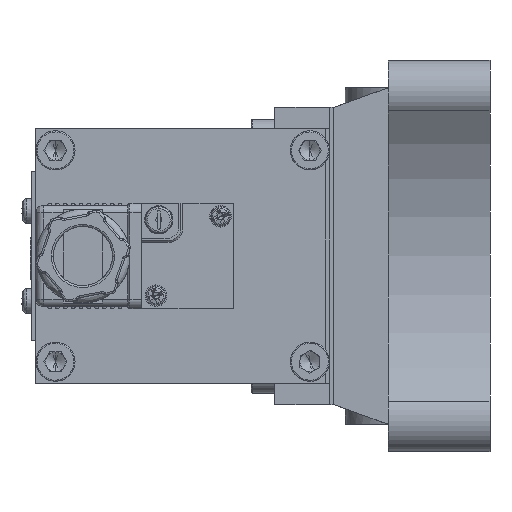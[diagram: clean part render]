
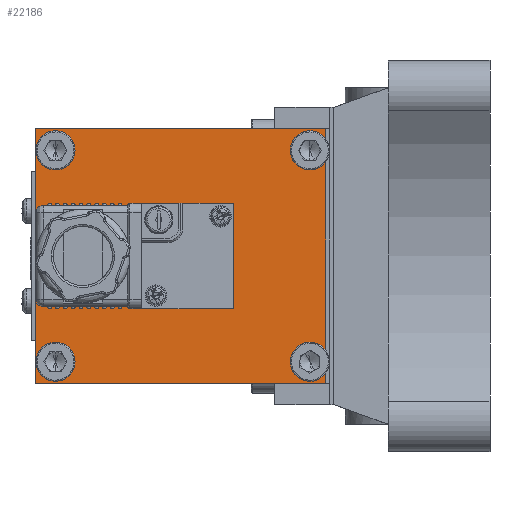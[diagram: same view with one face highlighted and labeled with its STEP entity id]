
A CAD part, left-side view. The second image highlights one B-rep face of the part: STEP entity #22186.
In plain terms, the highlighted planar face has unit normal (-1, 0, 0) as drawn and (1, 0, 0) by its records, which use the part's own axes.
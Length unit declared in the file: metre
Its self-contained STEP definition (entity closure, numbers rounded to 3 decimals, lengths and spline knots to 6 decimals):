
#594 = CARTESIAN_POINT ( 'NONE',  ( 0.08, 0.071, -0.024 ) ) ;
#962 = EDGE_CURVE ( 'NONE', #16941, #17996, #11700, .T. ) ;
#1010 = DIRECTION ( 'NONE',  ( 1., 0., 0. ) ) ;
#1412 = ORIENTED_EDGE ( 'NONE', *, *, #4409, .F. ) ;
#1476 = EDGE_CURVE ( 'NONE', #20657, #29324, #9922, .T. ) ;
#1846 = CARTESIAN_POINT ( 'NONE',  ( 0.08, 0.071, 0.024 ) ) ;
#2205 = CIRCLE ( 'NONE', #6898, 0.003 ) ;
#2241 = DIRECTION ( 'NONE',  ( 0., 0., -1. ) ) ;
#2454 = VERTEX_POINT ( 'NONE', #6439 ) ;
#2766 = VERTEX_POINT ( 'NONE', #4960 ) ;
#2784 = CARTESIAN_POINT ( 'NONE',  ( 0.08, 0.006, -0.027 ) ) ;
#3236 = AXIS2_PLACEMENT_3D ( 'NONE', #18365, #4723, #20730 ) ;
#3405 = CARTESIAN_POINT ( 'NONE',  ( 0.08, 0.006, -0.03 ) ) ;
#4269 = LINE ( 'NONE', #10450, #15651 ) ;
#4352 = CIRCLE ( 'NONE', #27742, 0.003 ) ;
#4409 = EDGE_CURVE ( 'NONE', #29324, #23172, #4269, .T. ) ;
#4452 = FACE_BOUND ( 'NONE', #13984, .T. ) ;
#4723 = DIRECTION ( 'NONE',  ( 1., 0., 0. ) ) ;
#4960 = CARTESIAN_POINT ( 'NONE',  ( 0.08, 0.002, -0.0325 ) ) ;
#5064 = DIRECTION ( 'NONE',  ( 0., 0., -1. ) ) ;
#5108 = DIRECTION ( 'NONE',  ( 1., 0., 0. ) ) ;
#5524 = VERTEX_POINT ( 'NONE', #26119 ) ;
#5773 = VECTOR ( 'NONE', #29485, 1. ) ;
#6276 = ORIENTED_EDGE ( 'NONE', *, *, #12100, .F. ) ;
#6439 = CARTESIAN_POINT ( 'NONE',  ( 0.08, 0.006, 0.024 ) ) ;
#6898 = AXIS2_PLACEMENT_3D ( 'NONE', #18762, #5108, #21119 ) ;
#7332 = CIRCLE ( 'NONE', #14010, 0.003 ) ;
#7370 = PLANE ( 'NONE',  #10486 ) ;
#7636 = CIRCLE ( 'NONE', #3236, 0.003 ) ;
#8324 = CARTESIAN_POINT ( 'NONE',  ( 0.08, 0.071, 0.03 ) ) ;
#8368 = EDGE_CURVE ( 'NONE', #24551, #5524, #7332, .T. ) ;
#8600 = VERTEX_POINT ( 'NONE', #13957 ) ;
#8602 = EDGE_CURVE ( 'NONE', #2766, #20657, #19866, .T. ) ;
#9672 = CARTESIAN_POINT ( 'NONE',  ( 0.08, 0.002, -0.0325 ) ) ;
#9785 = ORIENTED_EDGE ( 'NONE', *, *, #26286, .F. ) ;
#9922 = LINE ( 'NONE', #16521, #15248 ) ;
#10278 = ORIENTED_EDGE ( 'NONE', *, *, #8602, .F. ) ;
#10450 = CARTESIAN_POINT ( 'NONE',  ( 0.08, 0.076, 0. ) ) ;
#10486 = AXIS2_PLACEMENT_3D ( 'NONE', #9672, #11957, #28117 ) ;
#10504 = FACE_BOUND ( 'NONE', #18573, .T. ) ;
#11699 = ORIENTED_EDGE ( 'NONE', *, *, #14293, .F. ) ;
#11700 = CIRCLE ( 'NONE', #18308, 0.003 ) ;
#11957 = DIRECTION ( 'NONE',  ( -1., 0., 0. ) ) ;
#12065 = EDGE_CURVE ( 'NONE', #23172, #2766, #12562, .T. ) ;
#12100 = EDGE_CURVE ( 'NONE', #5524, #24551, #29553, .T. ) ;
#12174 = EDGE_CURVE ( 'NONE', #21383, #2454, #7636, .T. ) ;
#12562 = LINE ( 'NONE', #13301, #5773 ) ;
#13206 = CARTESIAN_POINT ( 'NONE',  ( 0.08, 0.071, -0.027 ) ) ;
#13301 = CARTESIAN_POINT ( 'NONE',  ( 0.08, 0.039, -0.0325 ) ) ;
#13392 = DIRECTION ( 'NONE',  ( 1., 0., 0. ) ) ;
#13729 = VECTOR ( 'NONE', #16244, 1. ) ;
#13914 = VERTEX_POINT ( 'NONE', #3405 ) ;
#13957 = CARTESIAN_POINT ( 'NONE',  ( 0.08, 0.006, -0.024 ) ) ;
#13984 = EDGE_LOOP ( 'NONE', ( #24973, #15130 ) ) ;
#14010 = AXIS2_PLACEMENT_3D ( 'NONE', #13206, #29387, #15494 ) ;
#14267 = CARTESIAN_POINT ( 'NONE',  ( 0.08, 0.071, 0.027 ) ) ;
#14293 = EDGE_CURVE ( 'NONE', #13914, #8600, #26361, .T. ) ;
#14585 = CARTESIAN_POINT ( 'NONE',  ( 0.08, 0.006, -0.027 ) ) ;
#15130 = ORIENTED_EDGE ( 'NONE', *, *, #23063, .F. ) ;
#15248 = VECTOR ( 'NONE', #16253, 1. ) ;
#15494 = DIRECTION ( 'NONE',  ( 0., 0., -1. ) ) ;
#15651 = VECTOR ( 'NONE', #26689, 1. ) ;
#15833 = DIRECTION ( 'NONE',  ( 1., 0., 0. ) ) ;
#16244 = DIRECTION ( 'NONE',  ( 0., 0., 1. ) ) ;
#16253 = DIRECTION ( 'NONE',  ( 0., 1., 0. ) ) ;
#16521 = CARTESIAN_POINT ( 'NONE',  ( 0.08, 0.039, 0.0325 ) ) ;
#16545 = FACE_BOUND ( 'NONE', #21972, .T. ) ;
#16717 = EDGE_CURVE ( 'NONE', #2454, #21383, #2205, .T. ) ;
#16869 = DIRECTION ( 'NONE',  ( 0., 0., -1. ) ) ;
#16941 = VERTEX_POINT ( 'NONE', #1846 ) ;
#17387 = ORIENTED_EDGE ( 'NONE', *, *, #8368, .F. ) ;
#17545 = AXIS2_PLACEMENT_3D ( 'NONE', #27261, #13392, #29583 ) ;
#17996 = VERTEX_POINT ( 'NONE', #8324 ) ;
#18308 = AXIS2_PLACEMENT_3D ( 'NONE', #21193, #21235, #21256 ) ;
#18365 = CARTESIAN_POINT ( 'NONE',  ( 0.08, 0.006, 0.027 ) ) ;
#18573 = EDGE_LOOP ( 'NONE', ( #11699, #9785 ) ) ;
#18711 = DIRECTION ( 'NONE',  ( 1., 0., 0. ) ) ;
#18762 = CARTESIAN_POINT ( 'NONE',  ( 0.08, 0.006, 0.027 ) ) ;
#18909 = ORIENTED_EDGE ( 'NONE', *, *, #1476, .F. ) ;
#19866 = LINE ( 'NONE', #23181, #13729 ) ;
#20657 = VERTEX_POINT ( 'NONE', #27501 ) ;
#20730 = DIRECTION ( 'NONE',  ( 0., 0., -1. ) ) ;
#21119 = DIRECTION ( 'NONE',  ( 0., 0., -1. ) ) ;
#21193 = CARTESIAN_POINT ( 'NONE',  ( 0.08, 0.071, 0.027 ) ) ;
#21235 = DIRECTION ( 'NONE',  ( 1., 0., 0. ) ) ;
#21256 = DIRECTION ( 'NONE',  ( 0., 0., -1. ) ) ;
#21383 = VERTEX_POINT ( 'NONE', #27559 ) ;
#21962 = CARTESIAN_POINT ( 'NONE',  ( 0.08, 0.076, 0.0325 ) ) ;
#21972 = EDGE_LOOP ( 'NONE', ( #24603, #29095 ) ) ;
#22186 = ADVANCED_FACE ( 'NONE', ( #4452, #28928, #16545, #10504, #28185 ), #7370, .F. ) ;
#23063 = EDGE_CURVE ( 'NONE', #17996, #16941, #26414, .T. ) ;
#23172 = VERTEX_POINT ( 'NONE', #29716 ) ;
#23181 = CARTESIAN_POINT ( 'NONE',  ( 0.08, 0.002, 0. ) ) ;
#24551 = VERTEX_POINT ( 'NONE', #594 ) ;
#24603 = ORIENTED_EDGE ( 'NONE', *, *, #16717, .F. ) ;
#24973 = ORIENTED_EDGE ( 'NONE', *, *, #962, .F. ) ;
#25694 = EDGE_LOOP ( 'NONE', ( #6276, #17387 ) ) ;
#26119 = CARTESIAN_POINT ( 'NONE',  ( 0.08, 0.071, -0.03 ) ) ;
#26286 = EDGE_CURVE ( 'NONE', #8600, #13914, #4352, .T. ) ;
#26361 = CIRCLE ( 'NONE', #27516, 0.003 ) ;
#26414 = CIRCLE ( 'NONE', #28872, 0.003 ) ;
#26689 = DIRECTION ( 'NONE',  ( 0., 0., -1. ) ) ;
#27261 = CARTESIAN_POINT ( 'NONE',  ( 0.08, 0.071, -0.027 ) ) ;
#27501 = CARTESIAN_POINT ( 'NONE',  ( 0.08, 0.002, 0.0325 ) ) ;
#27516 = AXIS2_PLACEMENT_3D ( 'NONE', #2784, #18711, #5064 ) ;
#27559 = CARTESIAN_POINT ( 'NONE',  ( 0.08, 0.006, 0.03 ) ) ;
#27742 = AXIS2_PLACEMENT_3D ( 'NONE', #14585, #1010, #16869 ) ;
#28117 = DIRECTION ( 'NONE',  ( 0., 0., 1. ) ) ;
#28185 = FACE_OUTER_BOUND ( 'NONE', #29202, .T. ) ;
#28872 = AXIS2_PLACEMENT_3D ( 'NONE', #14267, #15833, #2241 ) ;
#28928 = FACE_BOUND ( 'NONE', #25694, .T. ) ;
#29095 = ORIENTED_EDGE ( 'NONE', *, *, #12174, .F. ) ;
#29202 = EDGE_LOOP ( 'NONE', ( #1412, #18909, #10278, #29510 ) ) ;
#29324 = VERTEX_POINT ( 'NONE', #21962 ) ;
#29387 = DIRECTION ( 'NONE',  ( 1., 0., 0. ) ) ;
#29485 = DIRECTION ( 'NONE',  ( 0., -1., 0. ) ) ;
#29510 = ORIENTED_EDGE ( 'NONE', *, *, #12065, .F. ) ;
#29553 = CIRCLE ( 'NONE', #17545, 0.003 ) ;
#29583 = DIRECTION ( 'NONE',  ( 0., 0., -1. ) ) ;
#29716 = CARTESIAN_POINT ( 'NONE',  ( 0.08, 0.076, -0.0325 ) ) ;
